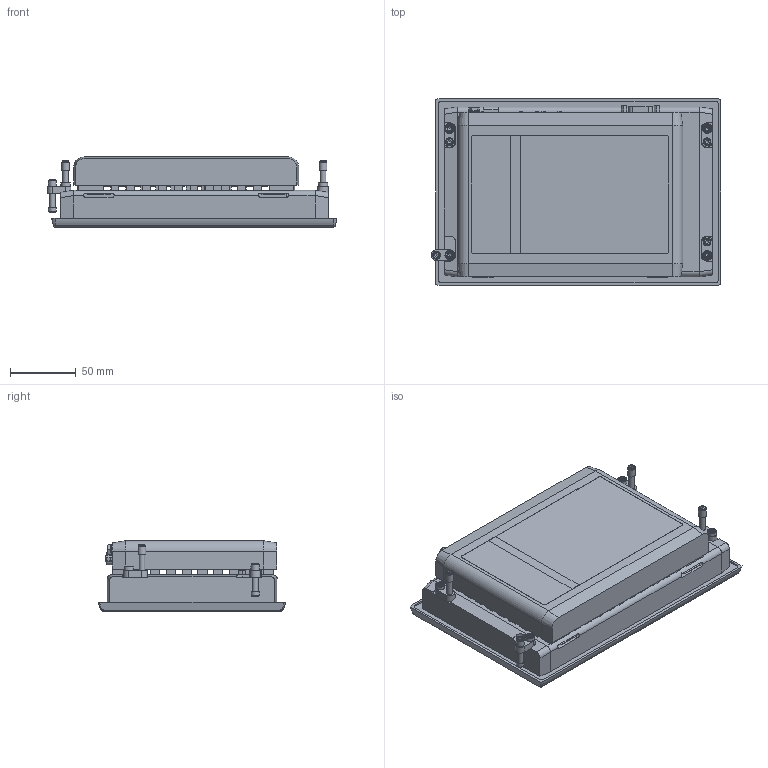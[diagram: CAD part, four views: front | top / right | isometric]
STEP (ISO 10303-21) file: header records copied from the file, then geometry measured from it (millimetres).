
FILE_DESCRIPTION(/* description */ (''),/* implementation_level */ '2;1');
FILE_NAME(/* name */ 'X:\0-inventor\0-3d-Teile\PC-Compo\solids\CP2xxx\0-Ausgabe\CP2607-M575.stp',/* time_stamp */ '2015-09-01T17:18:34+02:00',/* author */ ('ChristianKreuzer'),/* organization */ ('Design-AG'),/* preprocessor_version */ 'ST-DEVELOPER v16.1',/* originating_system */ 'Autodesk Inventor 2016',/* authorisation */ '');
FILE_SCHEMA (('AUTOMOTIVE_DESIGN { 1 0 10303 214 3 1 1 }'));
Length unit declared in the file: millimetre
Products named in the file (1): CP2607-M575-Step
Bounding box: 220 x 142 x 53.81 mm (x, y, z)
Volume: 875835.7 mm3; surface area: 213661.6 mm2
Topology: 9 solids, 17 shells, 1321 faces, 3493 edges, 2251 vertices
Faces by surface type: plane 820, cylinder 339, cone 92, bspline 55, torus 15
Full cylindrical faces by diameter (mm): 1 x9, 1.567 x2, 2.459 x2, 3 x11, 3.05 x1, 3.2 x4, 3.242 x4, 3.683 x1, 4 x4, 4.4 x4, 4.6 x4, 4.917 x4, 5.4 x4, 5.5 x4, 5.9 x1, 6 x7, 6.35 x2, 6.96 x2, 7 x4, 9.119 x1, 9.474 x2, 9.5 x1
Entity records: 44061 total; most frequent: CARTESIAN_POINT 10930, ORIENTED_EDGE 6582, DIRECTION 6314, EDGE_CURVE 3291, LINE 2272, VECTOR 2272, VERTEX_POINT 2200, AXIS2_PLACEMENT_3D 2021
